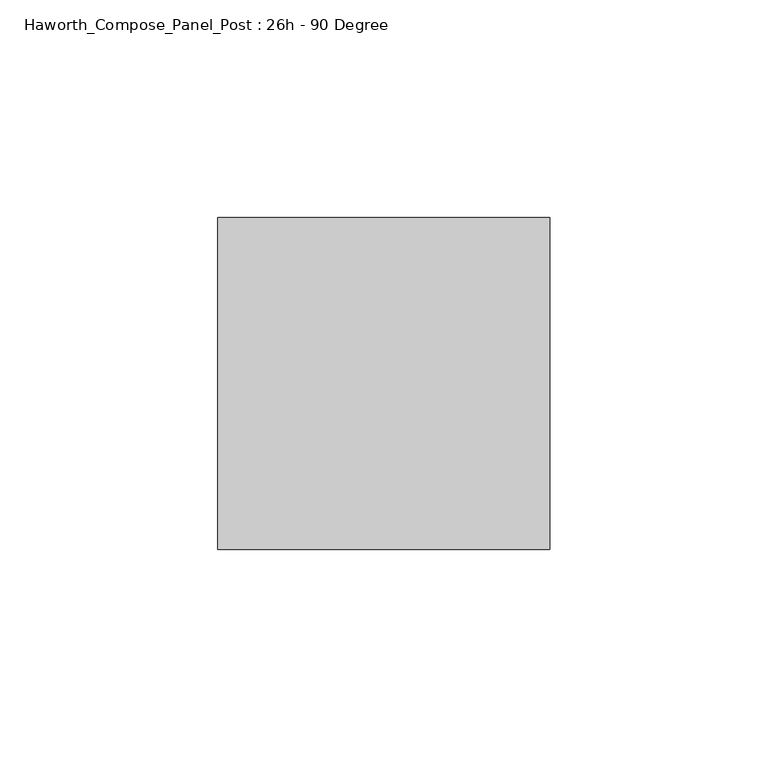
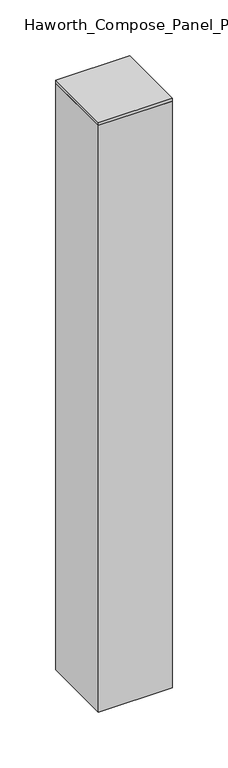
"""IFC4 building model written with IfcOpenShell, lengths in millimetres: furniture geometry, Haworth_Compose_Panel_Post : 26h - 90 Degree."""

from ifc_helpers import new_model, si_unit, frame, origin, place, context, project, spatial, polyline, outline, extrude, source, transform, mapped, element, save


def haworth_compose_panel_post_26h_90_degree_e78f71a2(model_context):
    return source(origin(), model_context, "Body", "SweptSolid", [
        extrude(outline(polyline([(0.0, -38.1), (0.0, 38.1), (76.2, 38.1), (76.2, -38.1), (0.0, -38.1)])), frame((0.0, 0.0, 654.05), z_axis=(0.0, 0.0, 1.0), x_axis=(1.0, 0.0, 0.0)), (0.0, 0.0, 1.0), 3.175),
        extrude(outline(polyline([(76.2, -38.1), (0.0, -38.1), (0.0, 38.1), (76.2, 38.1), (76.2, -38.1)])), frame((0.0, 0.0, 12.7), z_axis=(0.0, 0.0, 1.0), x_axis=(1.0, 0.0, 0.0)), (0.0, 0.0, 1.0), 641.35),
    ])


if __name__ == "__main__":
    model = new_model("IFC4")
    model_context = context("Model", 3, world=origin())
    ifc_project = project(units=[si_unit("LENGTHUNIT", "METRE", prefix="MILLI")], contexts=[model_context])
    site = spatial("IfcSite", under=ifc_project)
    building = spatial("IfcBuilding", under=site)
    placement = place(None, origin())
    haworth_compose_panel_post_26h_90_degree_shape = haworth_compose_panel_post_26h_90_degree_e78f71a2(model_context)
    element("IfcFurniture", 1, ObjectType="Haworth_Compose_Panel_Post : 26h - 90 Degree", at=placement, inside=building, context=model_context, shape_type="MappedRepresentation", body=[
        mapped(haworth_compose_panel_post_26h_90_degree_shape, transform((0.0, 0.0, 0.0), x_axis=(1.0, 0.0, 0.0), y_axis=(0.0, 1.0, 0.0), z_axis=(0.0, 0.0, 1.0))),
    ])
    save(model, "model.ifc")
